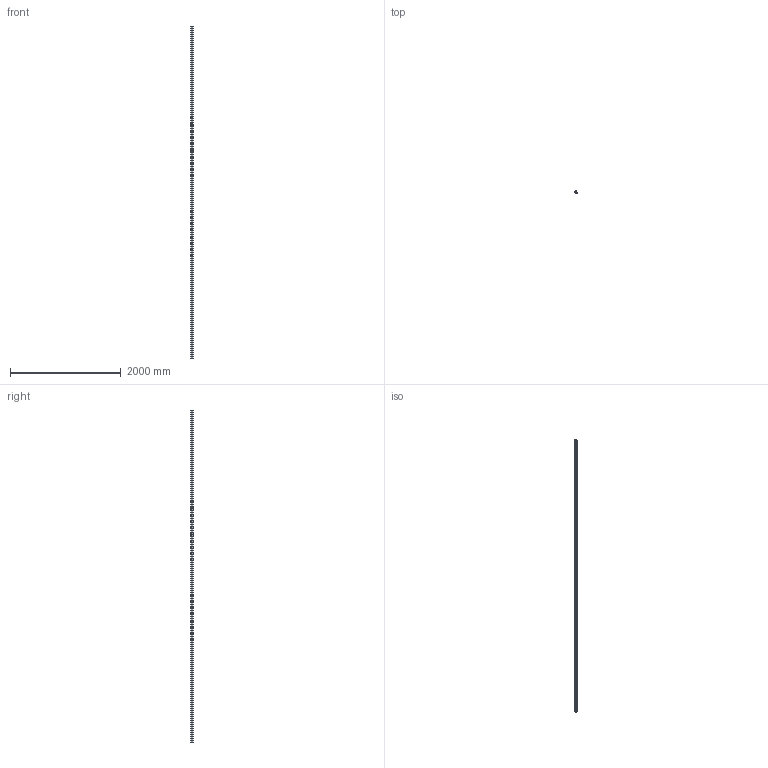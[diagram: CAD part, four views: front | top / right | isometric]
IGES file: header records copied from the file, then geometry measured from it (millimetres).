
Start section: SolidWorks IGES file using analytic representation for surfaces
Global section: file name: C:\Users\Ahmed\Desktop\Aluminium profiles\30x45 Degree Slot 8.IGS; native system: SolidWorks 2016; preprocessor: SolidWorks 2016; author: Ahmed; date: 170810.024657; units: millimetre
Bounding box: 38.27 x 41.95 x 6000 mm (x, y, z)
Surface area: 2266808.1 mm2 (no closed solid volume)
Topology: 0 solids, 0 shells, 174 faces, 1837 edges, 1837 vertices
Faces by surface type: bspline 123, revolution 51
